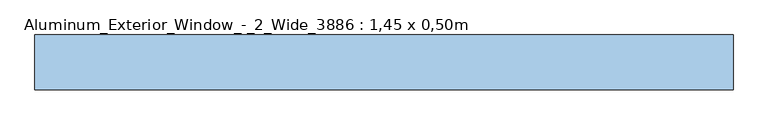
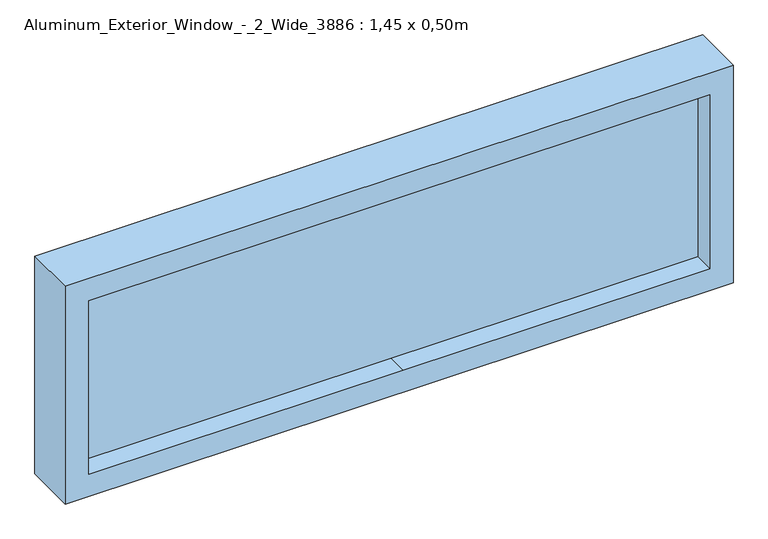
"""IFC4 building model written with IfcOpenShell, lengths in millimetres: window geometry, Aluminum_Exterior_Window_-_2_Wide_3886 : 1,45 x 0,50m."""

from ifc_helpers import new_model, si_unit, frame, origin, place, context, project, spatial, polyline, outline, extrude, source, transform, mapped, element, save


def aluminum_exterior_window_2_wide_3886_1_45_x_0_50m_3d7411e8(model_context):
    return source(origin(), model_context, "Body", "SweptSolid", [
        extrude(outline(polyline([(1560.0, -1371.6), (1060.0, -1371.6), (1060.0, 78.4), (1560.0, 78.4), (1560.0, -1371.6)]), holes=[polyline([(1509.2, -672.0), (1509.2, 27.6), (1110.8, 27.6), (1110.8, -638.8808837), (1110.8, -1320.8), (1509.2, -1320.8), (1509.2, -672.0)])]), frame((0.0, 36.8575246, 0.0), z_axis=(0.0, 1.0, 0.0), x_axis=(0.0, 0.0, 1.0)), (0.0, 0.0, 1.0), 114.3),
        extrude(outline(polyline([(1509.2, -672.0), (1509.2, -1320.8), (1110.8, -1320.8), (1110.8, -645.891469), (1110.8, 27.6), (1509.2, 27.6), (1509.2, -672.0)])), frame((0.0, 81.3075246, 0.0), z_axis=(0.0, 1.0, 0.0), x_axis=(0.0, 0.0, 1.0)), (0.0, 0.0, 1.0), 25.4),
    ])


if __name__ == "__main__":
    model = new_model("IFC4")
    model_context = context("Model", 3, world=origin())
    ifc_project = project(units=[si_unit("LENGTHUNIT", "METRE", prefix="MILLI")], contexts=[model_context])
    site = spatial("IfcSite", under=ifc_project)
    building = spatial("IfcBuilding", under=site)
    placement = place(None, origin())
    aluminum_exterior_window_2_wide_3886_1_45_x_0_50m_shape = aluminum_exterior_window_2_wide_3886_1_45_x_0_50m_3d7411e8(model_context)
    element("IfcWindow", 1, ObjectType="Aluminum_Exterior_Window_-_2_Wide_3886 : 1,45 x 0,50m", at=placement, inside=building, context=model_context, shape_type="MappedRepresentation", body=[
        mapped(aluminum_exterior_window_2_wide_3886_1_45_x_0_50m_shape, transform((0.0, 0.0, 0.0), x_axis=(1.0, 0.0, 0.0), y_axis=(0.0, 1.0, 0.0), z_axis=(0.0, 0.0, 1.0))),
    ])
    save(model, "model.ifc")
